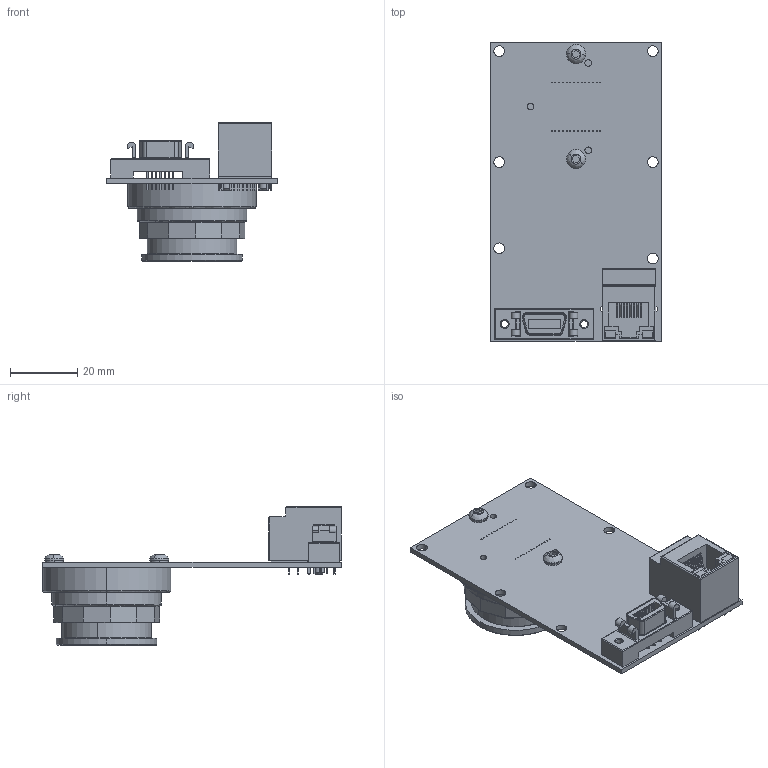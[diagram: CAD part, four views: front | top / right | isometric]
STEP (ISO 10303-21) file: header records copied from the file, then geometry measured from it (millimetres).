
FILE_DESCRIPTION (( 'STEP AP214' ), '1' );
FILE_NAME ('GB2450-V.STEP', '2013-07-31T22:59:46', ( '' ), ( '' ), 'SwSTEP 2.0', 'SolidWorks 2013', '' );
FILE_SCHEMA (( 'AUTOMOTIVE_DESIGN' ));
Length unit declared in the file: millimetre
Products named in the file (16): SONY ICX625 WINDOW; 140027-SCREW BUTTON M3x6 SS; GB2450-V; 110031A-B EC-CCD LOCKING RING; 110003AC-CV CMOUNT RING; 140004-LOW COST C-MOUNT CAP; 200086B-GB2450-LS-V; 200083B-GB2450-LS; 210046B-GB1380-650-LS; 260040-3M 10214-6212PC; 260038-HALO HFJV1-E1G16-L12RL; 110094A-GB CCD GASKET; 140008-washer spring lock #4; 110078A-GB MOUNT; 220100-SONY ICX625ALA; SONY ICX625 BODY
Assembly tree (17 placements, depth 4):
  GB2450-V
    140027-SCREW BUTTON M3x6 SS  x2
    220100-SONY ICX625ALA
      SONY ICX625 WINDOW
      SONY ICX625 BODY
    110078A-GB MOUNT
    140008-washer spring lock #4  x2
    110094A-GB CCD GASKET
    200086B-GB2450-LS-V
      260038-HALO HFJV1-E1G16-L12RL
      260040-3M 10214-6212PC
      200083B-GB2450-LS
        210046B-GB1380-650-LS
    140004-LOW COST C-MOUNT CAP
    110003AC-CV CMOUNT RING
    110031A-B EC-CCD LOCKING RING
Bounding box: 50.8 x 88.9 x 41.25 mm (x, y, z)
Volume: 21547.3 mm3; surface area: 28240.7 mm2
Topology: 14 solids, 14 shells, 1282 faces, 3262 edges, 2053 vertices
Faces by surface type: plane 816, cylinder 260, cone 180, bspline 26
Entity records: 53119 total; most frequent: CARTESIAN_POINT 7850, ORIENTED_EDGE 6396, DIRECTION 6337, EDGE_CURVE 3198, VECTOR 2445, LINE 2445, VERTEX_POINT 2017, AXIS2_PLACEMENT_3D 1946
